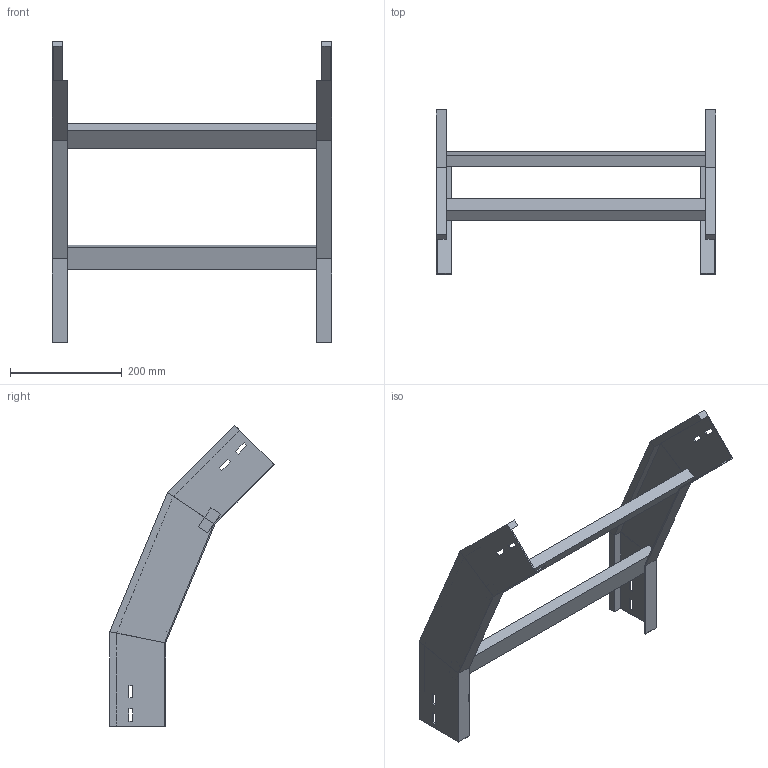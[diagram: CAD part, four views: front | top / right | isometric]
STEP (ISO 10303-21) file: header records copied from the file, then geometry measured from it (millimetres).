
FILE_DESCRIPTION (( 'STEP AP214' ), '1' );
FILE_NAME ('A2_34B3D500.step', '2025-02-21T14:51:38', ( '' ), ( '' ), 'SwSTEP 2.0', 'SolidWorks 2023', '' );
FILE_SCHEMA (( 'AUTOMOTIVE_DESIGN' ));
Length unit declared in the file: millimetre
Products named in the file (3): A2_34B3D500; LONGH.DISCESA_45°_H100_R300; TRAVERSINO_500
Assembly tree (5 placements, depth 2):
  A2_34B3D500
    LONGH.DISCESA_45°_H100_R300  x2
    TRAVERSINO_500  x3
Bounding box: 500 x 294.08 x 539.27 mm (x, y, z)
Volume: 1716048.3 mm3; surface area: 509397.4 mm2
Topology: 5 solids, 5 shells, 102 faces, 244 edges, 152 vertices
Faces by surface type: plane 102
Entity records: 1480 total; most frequent: CARTESIAN_POINT 244, ORIENTED_EDGE 232, DIRECTION 228, VECTOR 116, LINE 116, EDGE_CURVE 116, VERTEX_POINT 72, EDGE_LOOP 56
